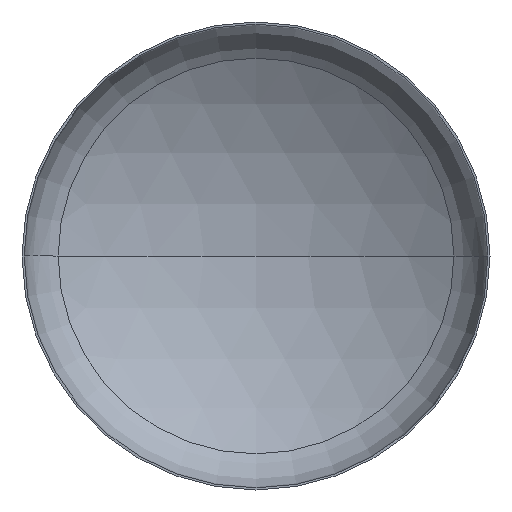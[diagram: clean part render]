
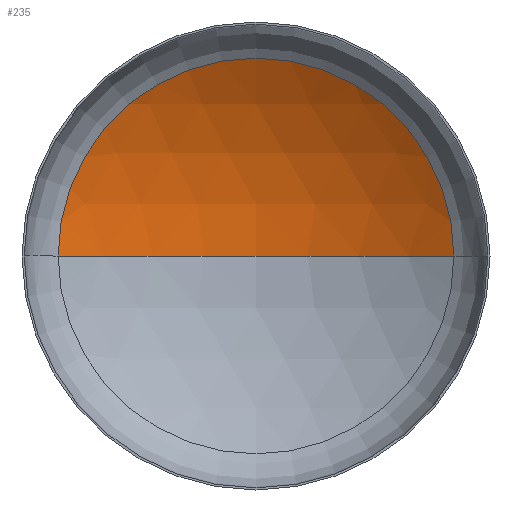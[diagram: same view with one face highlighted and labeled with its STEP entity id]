
A CAD part, front view. The second image highlights one B-rep face of the part: STEP entity #235.
In plain terms, the highlighted spherical face has radius 4000 mm.
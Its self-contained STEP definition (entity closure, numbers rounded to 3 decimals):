
#10 = DIRECTION ( 'NONE',  ( 0., 0., -1. ) ) ;
#16 = EDGE_LOOP ( 'NONE', ( #152, #114, #100 ) ) ;
#24 = CARTESIAN_POINT ( 'NONE',  ( 0., 723.687, 0. ) ) ;
#32 = AXIS2_PLACEMENT_3D ( 'NONE', #372, #228, #351 ) ;
#34 = AXIS2_PLACEMENT_3D ( 'NONE', #24, #223, #349 ) ;
#42 = VERTEX_POINT ( 'NONE', #300 ) ;
#54 = VERTEX_POINT ( 'NONE', #255 ) ;
#75 = AXIS2_PLACEMENT_3D ( 'NONE', #321, #10, #346 ) ;
#79 = VERTEX_POINT ( 'NONE', #256 ) ;
#100 = ORIENTED_EDGE ( 'NONE', *, *, #366, .T. ) ;
#114 = ORIENTED_EDGE ( 'NONE', *, *, #369, .T. ) ;
#126 = CIRCLE ( 'NONE', #32, 4000. ) ;
#152 = ORIENTED_EDGE ( 'NONE', *, *, #404, .F. ) ;
#178 = FACE_OUTER_BOUND ( 'NONE', #16, .T. ) ;
#182 = DIRECTION ( 'NONE',  ( 0., 0., 1. ) ) ;
#198 = AXIS2_PLACEMENT_3D ( 'NONE', #243, #182, #310 ) ;
#223 = DIRECTION ( 'NONE',  ( 0., -1., 0. ) ) ;
#227 = CIRCLE ( 'NONE', #34, 2113.932 ) ;
#228 = DIRECTION ( 'NONE',  ( 0., 0., -1. ) ) ;
#235 = ADVANCED_FACE ( 'NONE', ( #178 ), #312, .F. ) ;
#243 = CARTESIAN_POINT ( 'NONE',  ( 0., -2672.089, 0. ) ) ;
#255 = CARTESIAN_POINT ( 'NONE',  ( 0., 1327.911, 0. ) ) ;
#256 = CARTESIAN_POINT ( 'NONE',  ( 2113.932, 723.687, 0. ) ) ;
#300 = CARTESIAN_POINT ( 'NONE',  ( -2113.932, 723.687, 0. ) ) ;
#310 = DIRECTION ( 'NONE',  ( 1., 0., 0. ) ) ;
#312 = SPHERICAL_SURFACE ( 'NONE', #75, 4000. ) ;
#321 = CARTESIAN_POINT ( 'NONE',  ( 0., -2672.089, 0. ) ) ;
#346 = DIRECTION ( 'NONE',  ( -1., 0., 0. ) ) ;
#349 = DIRECTION ( 'NONE',  ( 1., 0., 0. ) ) ;
#351 = DIRECTION ( 'NONE',  ( -1., 0., 0. ) ) ;
#366 = EDGE_CURVE ( 'NONE', #79, #42, #227, .T. ) ;
#369 = EDGE_CURVE ( 'NONE', #54, #79, #126, .T. ) ;
#372 = CARTESIAN_POINT ( 'NONE',  ( 0., -2672.089, 0. ) ) ;
#384 = CIRCLE ( 'NONE', #198, 4000. ) ;
#404 = EDGE_CURVE ( 'NONE', #54, #42, #384, .T. ) ;
